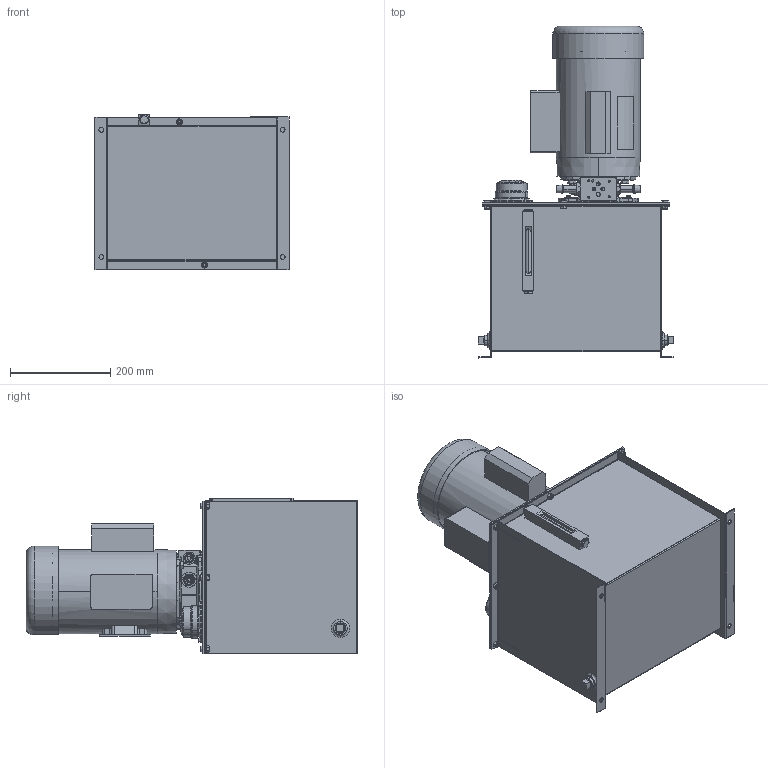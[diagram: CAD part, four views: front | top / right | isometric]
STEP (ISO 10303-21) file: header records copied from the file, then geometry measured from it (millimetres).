
FILE_DESCRIPTION((''),'2;1');
FILE_NAME('648475_SW0001','2013-10-09T',('GB10196'),('OILDYNE'),'PRO/ENGINEER BY PARAMETRIC TECHNOLOGY CORPORATION, 2009300','PRO/ENGINEER BY PARAMETRIC TECHNOLOGY CORPORATION, 2009300','');
FILE_SCHEMA(('CONFIG_CONTROL_DESIGN'));
Products named in the file (1): 648475_SW0001
Bounding box: 391.19 x 662.3 x 310.67 mm (x, y, z)
Surface area: 1678896.6 mm2 (no closed solid volume)
Topology: 0 solids, 133 shells, 1713 faces, 4874 edges, 3253 vertices
Faces by surface type: plane 527, cylinder 421, cone 409, bspline 215, torus 88, sphere 53
Entity records: 68511 total; most frequent: CARTESIAN_POINT 27167, ORIENTED_EDGE 8194, DIRECTION 8129, EDGE_CURVE 4854, VERTEX_POINT 3253, AXIS2_PLACEMENT_3D 3220, EDGE_LOOP 1919, CIRCLE 1722
